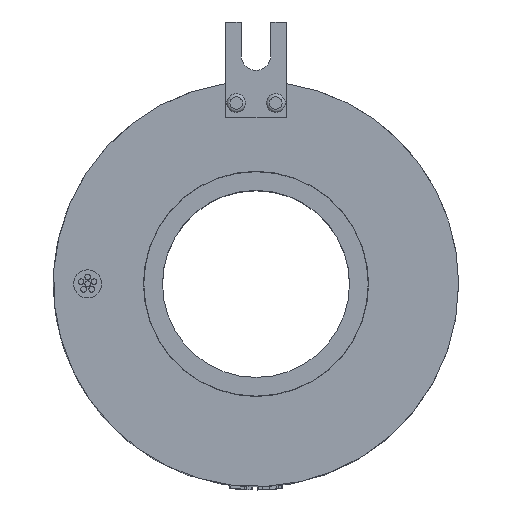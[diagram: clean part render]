
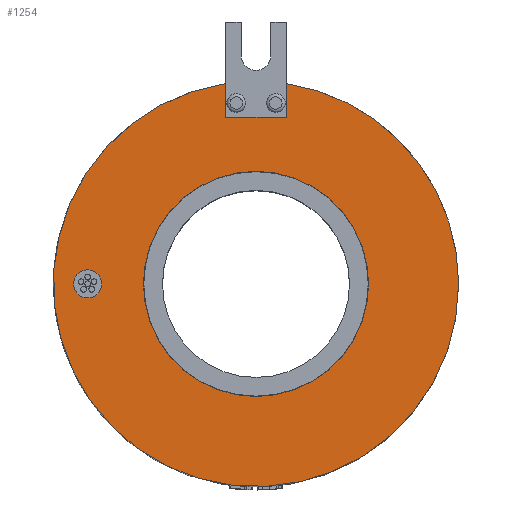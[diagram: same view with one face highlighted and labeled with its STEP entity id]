
A CAD part, top view. The second image highlights one B-rep face of the part: STEP entity #1254.
In plain terms, the highlighted planar face has unit normal (0, 0, 1).
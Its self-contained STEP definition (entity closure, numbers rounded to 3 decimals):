
#147=FACE_BOUND('',#2149,.T.);
#148=FACE_BOUND('',#2150,.T.);
#149=FACE_BOUND('',#2151,.T.);
#1254=ADVANCED_FACE('',(#147,#148,#149),#1489,.T.);
#1489=PLANE('',#7058);
#2149=EDGE_LOOP('',(#4606));
#2150=EDGE_LOOP('',(#4607));
#2151=EDGE_LOOP('',(#4608,#4609,#4610,#4611));
#2699=LINE('',#14688,#3251);
#2700=LINE('',#14690,#3252);
#2701=LINE('',#14692,#3253);
#3251=VECTOR('',#8077,1.);
#3252=VECTOR('',#8078,1.);
#3253=VECTOR('',#8079,1.);
#4606=ORIENTED_EDGE('',*,*,#6605,.T.);
#4607=ORIENTED_EDGE('',*,*,#6606,.T.);
#4608=ORIENTED_EDGE('',*,*,#6607,.F.);
#4609=ORIENTED_EDGE('',*,*,#6584,.T.);
#4610=ORIENTED_EDGE('',*,*,#6608,.F.);
#4611=ORIENTED_EDGE('',*,*,#6609,.F.);
#5179=VERTEX_POINT('',#8397);
#5180=VERTEX_POINT('',#8398);
#5712=VERTEX_POINT('',#14685);
#5713=VERTEX_POINT('',#14687);
#5714=VERTEX_POINT('',#14689);
#5715=VERTEX_POINT('',#14691);
#6584=EDGE_CURVE('',#5180,#5179,#6801,.T.);
#6605=EDGE_CURVE('',#5712,#5712,#6814,.T.);
#6606=EDGE_CURVE('',#5713,#5713,#6815,.T.);
#6607=EDGE_CURVE('',#5180,#5714,#2699,.T.);
#6608=EDGE_CURVE('',#5715,#5179,#2700,.T.);
#6609=EDGE_CURVE('',#5714,#5715,#2701,.T.);
#6801=CIRCLE('',#7037,65.);
#6814=CIRCLE('',#7056,4.5);
#6815=CIRCLE('',#7057,36.1);
#7037=AXIS2_PLACEMENT_3D('',#14637,#8027,#8028);
#7056=AXIS2_PLACEMENT_3D('',#14684,#8073,#8074);
#7057=AXIS2_PLACEMENT_3D('',#14686,#8075,#8076);
#7058=AXIS2_PLACEMENT_3D('',#14693,#8080,#8081);
#8027=DIRECTION('',(0.,0.,1.));
#8028=DIRECTION('',(1.,0.,0.));
#8073=DIRECTION('',(0.,0.,-1.));
#8074=DIRECTION('',(1.,0.,0.));
#8075=DIRECTION('',(0.,0.,-1.));
#8076=DIRECTION('',(-1.,0.,0.));
#8077=DIRECTION('',(0.,-1.,0.));
#8078=DIRECTION('',(0.,1.,0.));
#8079=DIRECTION('',(1.,0.,0.));
#8080=DIRECTION('',(0.,0.,1.));
#8081=DIRECTION('',(1.,0.,0.));
#8397=CARTESIAN_POINT('',(9.75,64.265,86.5));
#8398=CARTESIAN_POINT('',(-9.75,64.265,86.5));
#14637=CARTESIAN_POINT('',(0.,0.,86.5));
#14684=CARTESIAN_POINT('',(-54.,0.,86.5));
#14685=CARTESIAN_POINT('',(-49.5,0.,86.5));
#14686=CARTESIAN_POINT('',(0.,0.,86.5));
#14687=CARTESIAN_POINT('',(-36.1,0.,86.5));
#14688=CARTESIAN_POINT('',(-9.75,84.,86.5));
#14689=CARTESIAN_POINT('',(-9.75,53.5,86.5));
#14690=CARTESIAN_POINT('',(9.75,53.5,86.5));
#14691=CARTESIAN_POINT('',(9.75,53.5,86.5));
#14692=CARTESIAN_POINT('',(-9.75,53.5,86.5));
#14693=CARTESIAN_POINT('',(0.,0.,86.5));
